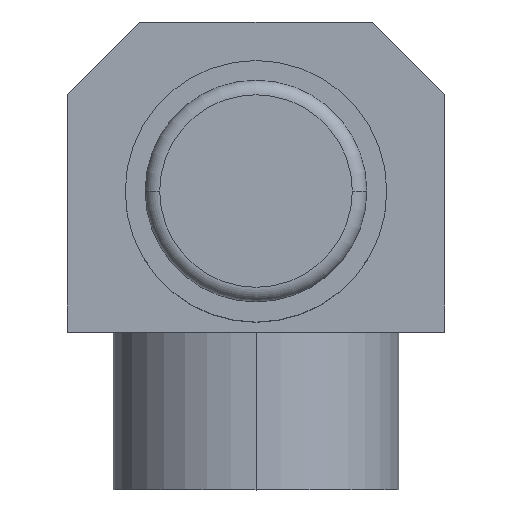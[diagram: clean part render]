
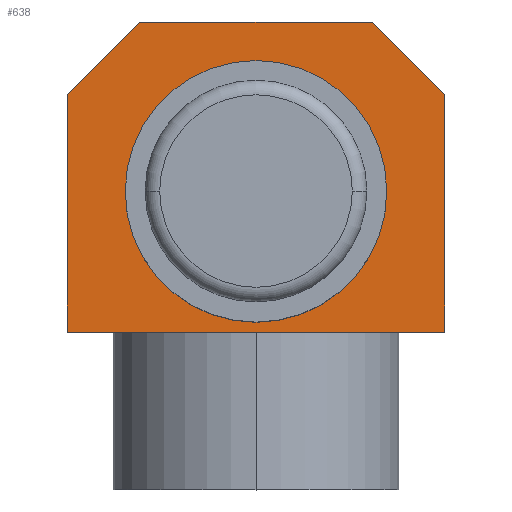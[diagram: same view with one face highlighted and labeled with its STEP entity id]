
A CAD part, top view. The second image highlights one B-rep face of the part: STEP entity #638.
In plain terms, the highlighted planar face has unit normal (0, 0, 1).
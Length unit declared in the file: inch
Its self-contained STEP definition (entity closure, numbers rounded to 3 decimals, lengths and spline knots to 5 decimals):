
#4 = ORIENTED_EDGE ( 'NONE', *, *, #1089, .T. ) ;
#33 = LINE ( 'NONE', #1058, #599 ) ;
#37 = VERTEX_POINT ( 'NONE', #233 ) ;
#39 = DIRECTION ( 'NONE',  ( 0., -1., 0. ) ) ;
#61 = EDGE_CURVE ( 'NONE', #463, #1112, #1137, .T. ) ;
#77 = EDGE_LOOP ( 'NONE', ( #381, #1372 ) ) ;
#85 = VECTOR ( 'NONE', #476, 39.37008 ) ;
#94 = CARTESIAN_POINT ( 'NONE',  ( 0.078, -0.058, -0.127 ) ) ;
#120 = VECTOR ( 'NONE', #610, 39.37008 ) ;
#130 = VERTEX_POINT ( 'NONE', #1109 ) ;
#132 = DIRECTION ( 'NONE',  ( 0., 0., 1. ) ) ;
#143 = DIRECTION ( 'NONE',  ( 0., 0., -1. ) ) ;
#165 = DIRECTION ( 'NONE',  ( 1., 0., 0. ) ) ;
#174 = CARTESIAN_POINT ( 'NONE',  ( 0., 0., -0.127 ) ) ;
#180 = FACE_OUTER_BOUND ( 'NONE', #503, .T. ) ;
#219 = CARTESIAN_POINT ( 'NONE',  ( -0.048, 0.07, -0.127 ) ) ;
#233 = CARTESIAN_POINT ( 'NONE',  ( -0.078, 0.04, -0.127 ) ) ;
#244 = EDGE_CURVE ( 'NONE', #130, #1193, #33, .T. ) ;
#252 = VERTEX_POINT ( 'NONE', #1029 ) ;
#265 = CARTESIAN_POINT ( 'NONE',  ( 0.054, 0., -0.127 ) ) ;
#286 = VECTOR ( 'NONE', #743, 39.37008 ) ;
#289 = EDGE_CURVE ( 'NONE', #37, #130, #1147, .T. ) ;
#294 = DIRECTION ( 'NONE',  ( 1., 0., 0. ) ) ;
#306 = VERTEX_POINT ( 'NONE', #265 ) ;
#310 = LINE ( 'NONE', #388, #760 ) ;
#380 = CARTESIAN_POINT ( 'NONE',  ( -0.078, 0.07, -0.127 ) ) ;
#381 = ORIENTED_EDGE ( 'NONE', *, *, #1140, .F. ) ;
#388 = CARTESIAN_POINT ( 'NONE',  ( 0.078, 0.07, -0.127 ) ) ;
#389 = CIRCLE ( 'NONE', #820, 0.054 ) ;
#390 = CARTESIAN_POINT ( 'NONE',  ( -0.078, 0.04, -0.127 ) ) ;
#398 = ORIENTED_EDGE ( 'NONE', *, *, #427, .T. ) ;
#427 = EDGE_CURVE ( 'NONE', #1112, #1418, #310, .T. ) ;
#463 = VERTEX_POINT ( 'NONE', #1378 ) ;
#476 = DIRECTION ( 'NONE',  ( 0., 1., 0. ) ) ;
#502 = CARTESIAN_POINT ( 'NONE',  ( 0.048, 0.07, -0.127 ) ) ;
#503 = EDGE_LOOP ( 'NONE', ( #736, #1190, #1184, #653, #398, #4 ) ) ;
#553 = CIRCLE ( 'NONE', #1236, 0.054 ) ;
#599 = VECTOR ( 'NONE', #165, 39.37008 ) ;
#610 = DIRECTION ( 'NONE',  ( -0.707, -0.707, 0. ) ) ;
#638 = ADVANCED_FACE ( 'NONE', ( #1047, #180 ), #812, .F. ) ;
#653 = ORIENTED_EDGE ( 'NONE', *, *, #61, .T. ) ;
#692 = LINE ( 'NONE', #1143, #85 ) ;
#736 = ORIENTED_EDGE ( 'NONE', *, *, #289, .T. ) ;
#743 = DIRECTION ( 'NONE',  ( -0.707, 0.707, 0. ) ) ;
#760 = VECTOR ( 'NONE', #1156, 39.37008 ) ;
#800 = EDGE_CURVE ( 'NONE', #1193, #463, #692, .T. ) ;
#808 = CARTESIAN_POINT ( 'NONE',  ( 0., 0., -0.127 ) ) ;
#812 = PLANE ( 'NONE',  #896 ) ;
#820 = AXIS2_PLACEMENT_3D ( 'NONE', #174, #964, #294 ) ;
#821 = CARTESIAN_POINT ( 'NONE',  ( 0., 0.054, -0.127 ) ) ;
#858 = VECTOR ( 'NONE', #39, 39.37008 ) ;
#876 = EDGE_CURVE ( 'NONE', #252, #306, #553, .T. ) ;
#896 = AXIS2_PLACEMENT_3D ( 'NONE', #821, #143, #929 ) ;
#917 = DIRECTION ( 'NONE',  ( 1., 0., 0. ) ) ;
#929 = DIRECTION ( 'NONE',  ( -1., 0., 0. ) ) ;
#964 = DIRECTION ( 'NONE',  ( 0., 0., 1. ) ) ;
#980 = LINE ( 'NONE', #390, #120 ) ;
#1029 = CARTESIAN_POINT ( 'NONE',  ( -0.054, 0., -0.127 ) ) ;
#1047 = FACE_BOUND ( 'NONE', #77, .T. ) ;
#1058 = CARTESIAN_POINT ( 'NONE',  ( 0., -0.058, -0.127 ) ) ;
#1089 = EDGE_CURVE ( 'NONE', #1418, #37, #980, .T. ) ;
#1109 = CARTESIAN_POINT ( 'NONE',  ( -0.078, -0.058, -0.127 ) ) ;
#1112 = VERTEX_POINT ( 'NONE', #1383 ) ;
#1137 = LINE ( 'NONE', #502, #286 ) ;
#1140 = EDGE_CURVE ( 'NONE', #306, #252, #389, .T. ) ;
#1143 = CARTESIAN_POINT ( 'NONE',  ( 0.078, 0.07, -0.127 ) ) ;
#1147 = LINE ( 'NONE', #380, #858 ) ;
#1156 = DIRECTION ( 'NONE',  ( -1., 0., 0. ) ) ;
#1184 = ORIENTED_EDGE ( 'NONE', *, *, #800, .T. ) ;
#1190 = ORIENTED_EDGE ( 'NONE', *, *, #244, .T. ) ;
#1193 = VERTEX_POINT ( 'NONE', #94 ) ;
#1236 = AXIS2_PLACEMENT_3D ( 'NONE', #808, #132, #917 ) ;
#1372 = ORIENTED_EDGE ( 'NONE', *, *, #876, .F. ) ;
#1378 = CARTESIAN_POINT ( 'NONE',  ( 0.078, 0.04, -0.127 ) ) ;
#1383 = CARTESIAN_POINT ( 'NONE',  ( 0.048, 0.07, -0.127 ) ) ;
#1418 = VERTEX_POINT ( 'NONE', #219 ) ;
